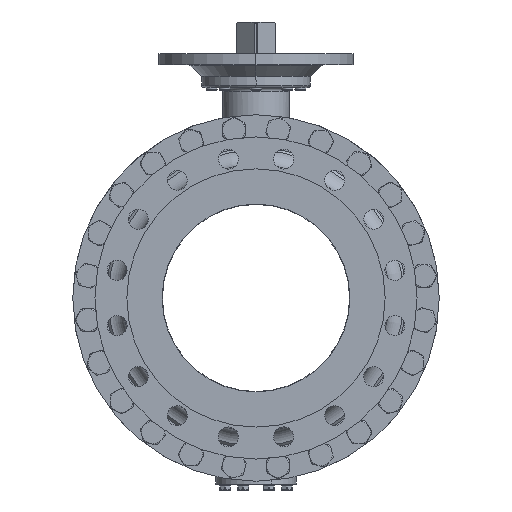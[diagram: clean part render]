
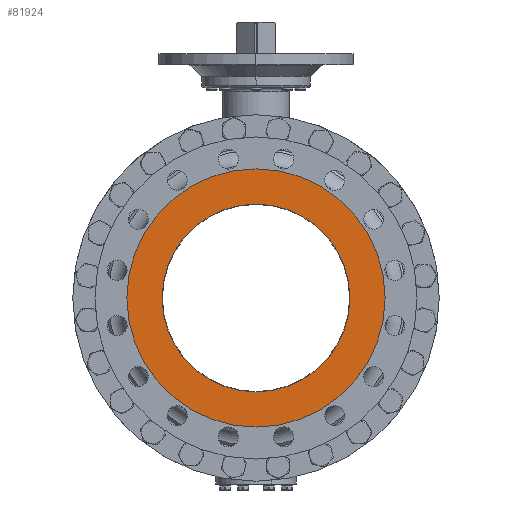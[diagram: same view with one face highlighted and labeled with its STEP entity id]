
A CAD part, left-side view. The second image highlights one B-rep face of the part: STEP entity #81924.
In plain terms, the highlighted planar face has unit normal (-1, 0, 0).
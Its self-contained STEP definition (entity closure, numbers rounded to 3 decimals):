
#11723=CARTESIAN_POINT('',(-381.,0.,0.));
#11724=DIRECTION('',(1.,0.,0.));
#11725=DIRECTION('',(0.,0.,1.));
#11726=AXIS2_PLACEMENT_3D('',#11723,#11724,#11725);
#11728=CARTESIAN_POINT('',(-381.,0.,0.));
#11729=DIRECTION('',(1.,0.,0.));
#11730=DIRECTION('',(0.,0.,-1.));
#11731=AXIS2_PLACEMENT_3D('',#11728,#11729,#11730);
#11733=CARTESIAN_POINT('',(-381.,0.,0.));
#11734=DIRECTION('',(1.,0.,0.));
#11735=DIRECTION('',(0.,0.,1.));
#11736=AXIS2_PLACEMENT_3D('',#11733,#11734,#11735);
#11738=CARTESIAN_POINT('',(-381.,0.,0.));
#11739=DIRECTION('',(-1.,0.,0.));
#11740=DIRECTION('',(0.,0.,1.));
#11741=AXIS2_PLACEMENT_3D('',#11738,#11739,#11740);
#58687=CARTESIAN_POINT('',(-381.,0.,169.));
#58689=VERTEX_POINT('',#58687);
#58691=CARTESIAN_POINT('',(-381.,0.,-169.));
#58693=VERTEX_POINT('',#58691);
#58722=CARTESIAN_POINT('',(-381.,0.,232.5));
#58723=CARTESIAN_POINT('',(-381.,0.,-232.5));
#58724=VERTEX_POINT('',#58722);
#58725=VERTEX_POINT('',#58723);
#81909=CARTESIAN_POINT('',(-381.,0.,0.));
#81910=DIRECTION('',(-1.,0.,0.));
#81911=DIRECTION('',(0.,0.,-1.));
#81912=AXIS2_PLACEMENT_3D('',#81909,#81910,#81911);
#81913=PLANE('',#81912);
#81915=ORIENTED_EDGE('',*,*,#81914,.T.);
#81917=ORIENTED_EDGE('',*,*,#81916,.T.);
#81918=EDGE_LOOP('',(#81915,#81917));
#81919=FACE_OUTER_BOUND('',#81918,.F.);
#81920=ORIENTED_EDGE('',*,*,#81902,.F.);
#81921=ORIENTED_EDGE('',*,*,#81891,.T.);
#81922=EDGE_LOOP('',(#81920,#81921));
#81923=FACE_BOUND('',#81922,.F.);
#81924=ADVANCED_FACE('',(#81919,#81923),#81913,.T.);
#11727=CIRCLE('',#11726,232.5);
#11732=CIRCLE('',#11731,232.5);
#11737=CIRCLE('',#11736,169.);
#11742=CIRCLE('',#11741,169.);
#81891=EDGE_CURVE('',#58689,#58693,#11742,.T.);
#81902=EDGE_CURVE('',#58689,#58693,#11737,.T.);
#81914=EDGE_CURVE('',#58724,#58725,#11727,.T.);
#81916=EDGE_CURVE('',#58725,#58724,#11732,.T.);
